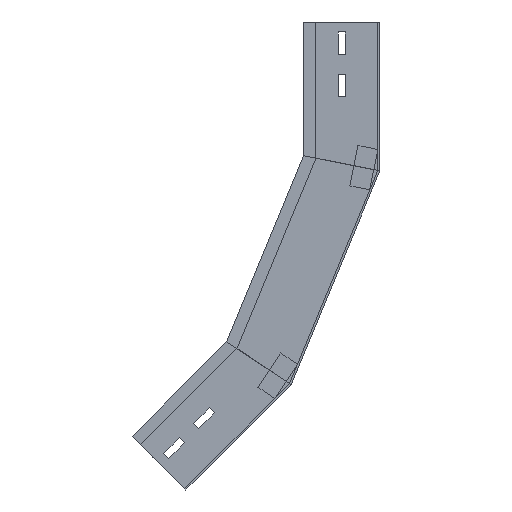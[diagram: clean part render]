
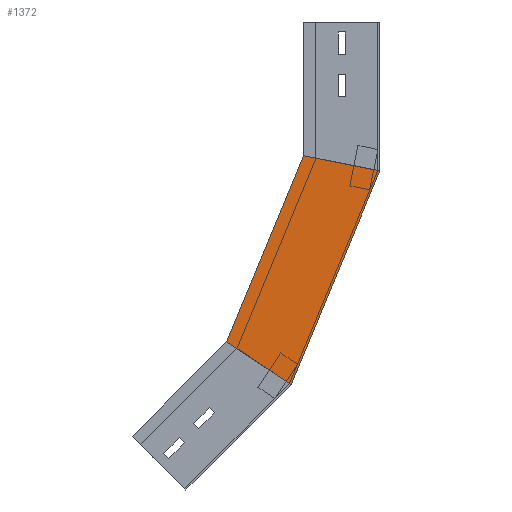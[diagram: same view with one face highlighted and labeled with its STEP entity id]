
A CAD part, left-side view. The second image highlights one B-rep face of the part: STEP entity #1372.
In plain terms, the highlighted planar face has unit normal (-1, 0, 0) as drawn and (1, 0, 0) by its records, which use the part's own axes.
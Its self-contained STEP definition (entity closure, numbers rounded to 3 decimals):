
#58 = LINE ( 'NONE', #951, #1230 ) ;
#129 = CARTESIAN_POINT ( 'NONE',  ( 0., 69.291, -117.899 ) ) ;
#164 = LINE ( 'NONE', #963, #1030 ) ;
#179 = CARTESIAN_POINT ( 'NONE',  ( 0., 0., -146.6 ) ) ;
#241 = ORIENTED_EDGE ( 'NONE', *, *, #605, .T. ) ;
#306 = CARTESIAN_POINT ( 'NONE',  ( 0., 150.91, -314.945 ) ) ;
#315 = ORIENTED_EDGE ( 'NONE', *, *, #1470, .T. ) ;
#387 = VERTEX_POINT ( 'NONE', #557 ) ;
#435 = VECTOR ( 'NONE', #739, 1000. ) ;
#496 = LINE ( 'NONE', #129, #934 ) ;
#531 = DIRECTION ( 'NONE',  ( 0., -0.831, -0.556 ) ) ;
#557 = CARTESIAN_POINT ( 'NONE',  ( 0., 87.328, -357.429 ) ) ;
#605 = EDGE_CURVE ( 'NONE', #1170, #1168, #164, .T. ) ;
#733 = ORIENTED_EDGE ( 'NONE', *, *, #1004, .F. ) ;
#739 = DIRECTION ( 'NONE',  ( 0., 0.383, -0.924 ) ) ;
#747 = VERTEX_POINT ( 'NONE', #306 ) ;
#765 = ORIENTED_EDGE ( 'NONE', *, *, #1071, .F. ) ;
#789 = FACE_OUTER_BOUND ( 'NONE', #1423, .T. ) ;
#826 = CARTESIAN_POINT ( 'NONE',  ( 0., 0., -146.6 ) ) ;
#828 = DIRECTION ( 'NONE',  ( 0., 0.383, -0.924 ) ) ;
#934 = VECTOR ( 'NONE', #828, 1000. ) ;
#951 = CARTESIAN_POINT ( 'NONE',  ( 0., 124.345, -332.696 ) ) ;
#963 = CARTESIAN_POINT ( 'NONE',  ( 0., 28.051, -141.02 ) ) ;
#1004 = EDGE_CURVE ( 'NONE', #1170, #747, #496, .T. ) ;
#1022 = PLANE ( 'NONE',  #1093 ) ;
#1030 = VECTOR ( 'NONE', #1184, 1000. ) ;
#1067 = LINE ( 'NONE', #179, #435 ) ;
#1071 = EDGE_CURVE ( 'NONE', #747, #387, #58, .T. ) ;
#1093 = AXIS2_PLACEMENT_3D ( 'NONE', #826, #1288, #1249 ) ;
#1107 = CARTESIAN_POINT ( 'NONE',  ( 0., 0., -146.6 ) ) ;
#1168 = VERTEX_POINT ( 'NONE', #1107 ) ;
#1170 = VERTEX_POINT ( 'NONE', #1463 ) ;
#1184 = DIRECTION ( 'NONE',  ( 0., -0.981, -0.195 ) ) ;
#1230 = VECTOR ( 'NONE', #531, 1000. ) ;
#1249 = DIRECTION ( 'NONE',  ( 0., 0., 1. ) ) ;
#1288 = DIRECTION ( 'NONE',  ( -1., 0., 0. ) ) ;
#1372 = ADVANCED_FACE ( 'NONE', ( #789 ), #1022, .F. ) ;
#1423 = EDGE_LOOP ( 'NONE', ( #733, #241, #315, #765 ) ) ;
#1463 = CARTESIAN_POINT ( 'NONE',  ( 0., 75., -131.682 ) ) ;
#1470 = EDGE_CURVE ( 'NONE', #1168, #387, #1067, .T. ) ;
